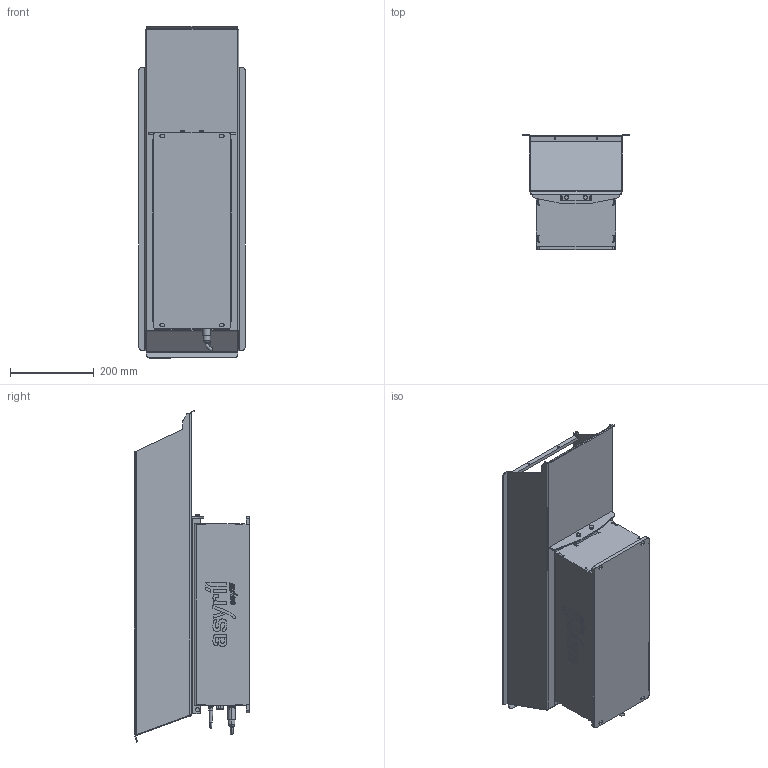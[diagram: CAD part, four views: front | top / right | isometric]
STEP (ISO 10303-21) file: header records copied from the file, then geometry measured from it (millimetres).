
FILE_DESCRIPTION (( 'STEP AP214' ), '1' );
FILE_NAME ('Asyril_ASYFILL L_14L.STEP', '2023-05-09T11:01:48', ( '%MACHINENAME%' ), ( 'CPA-GROUP.LOCAL' ), 'SwSTEP 2.0', 'SolidWorks 2019', '' );
FILE_SCHEMA (( 'AUTOMOTIVE_DESIGN' ));
Length unit declared in the file: millimetre
Products named in the file (5): Asyril_FEMALE STRAIGHT 4P Xm M08 MOLDED CABLE_XXX.XXX.XXX_(option); Asyril_ASYFILL L_000.106.045; Asyril_14 LITER ASYFILL CONTAINER_000.105.513_(option); Asyril_ASYFILL L_14L; Asyril_FEMALE STRAIGHT 5P 5m M16 POWER CABLE_900.006.215_(option)
Assembly tree (4 placements, depth 2):
  Asyril_ASYFILL L_14L
    Asyril_ASYFILL L_000.106.045
    Asyril_14 LITER ASYFILL CONTAINER_000.105.513_(option)
    Asyril_FEMALE STRAIGHT 5P 5m M16 POWER CABLE_900.006.215_(option)
    Asyril_FEMALE STRAIGHT 4P Xm M08 MOLDED CABLE_XXX.XXX.XXX_(option)
Bounding box: 254 x 275.49 x 793.95 mm (x, y, z)
Volume: 11996168.7 mm3; surface area: 1285584 mm2
Topology: 38 solids, 39 shells, 961 faces, 2420 edges, 1562 vertices
Faces by surface type: plane 512, cylinder 242, bspline 169, cone 17, torus 13, sphere 8
Entity records: 33419 total; most frequent: CARTESIAN_POINT 8417, ORIENTED_EDGE 4788, DIRECTION 4049, EDGE_CURVE 2394, VERTEX_POINT 1554, VECTOR 1455, LINE 1455, AXIS2_PLACEMENT_3D 1297
